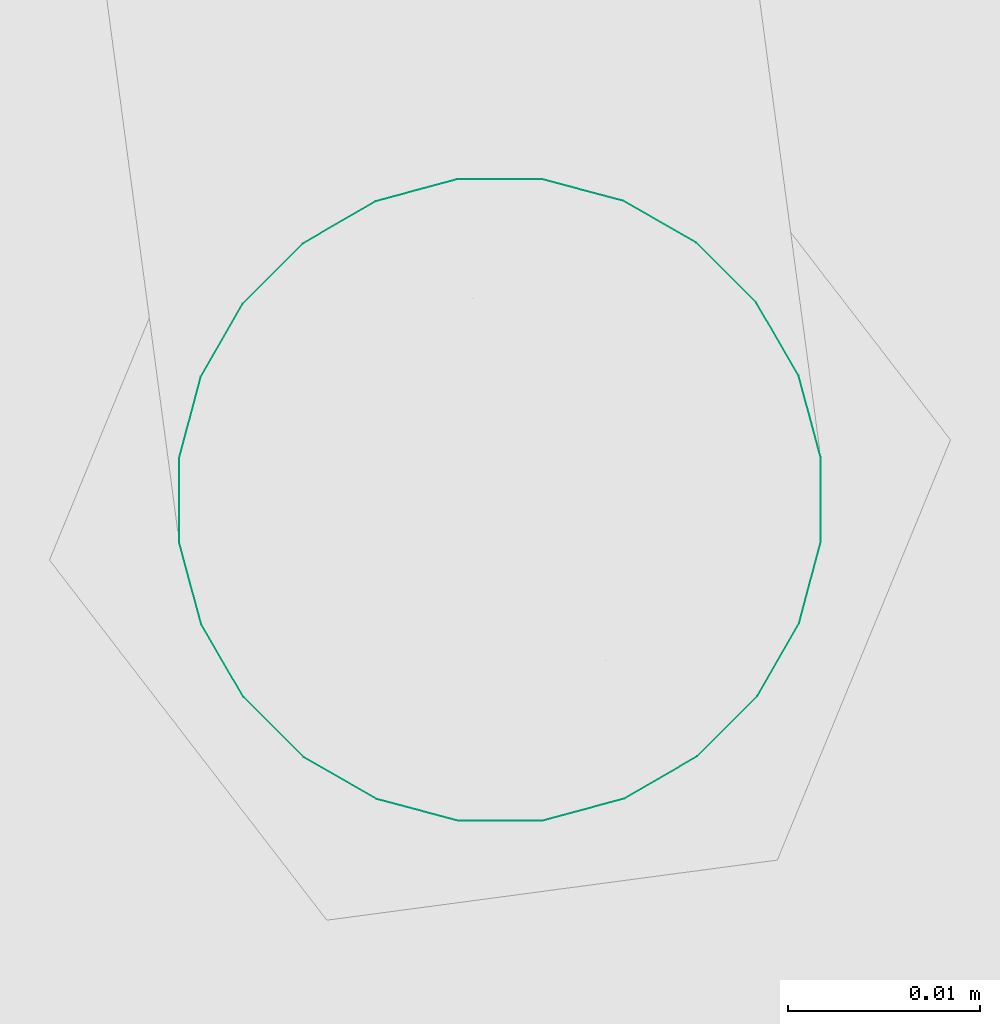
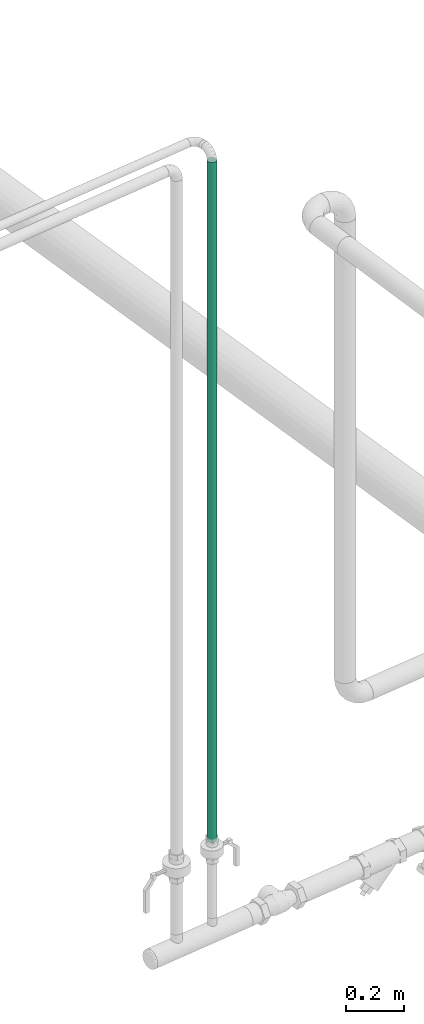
# One storey, part 230 of 374: 1 flow segment.
"""IFC2X3 building model written with IfcOpenShell, lengths in metres."""

from ifc_helpers import new_model, si_unit, direction, origin, place, context, subcontext, project, spatial, open_shell, surface_model, source, transform, mapped, element, save


model = new_model("IFC2X3")

# Units and contexts
model_context = context("Model", 3, precision=1e-05, world=origin(), true_north=direction((-0.4480736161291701, 0.8939966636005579)))
body_context = subcontext(model_context, "Body", "Model", "MODEL_VIEW")
ifc_project = project(units=[si_unit("LENGTHUNIT", "METRE"), si_unit("AREAUNIT", "SQUARE_METRE"), si_unit("VOLUMEUNIT", "CUBIC_METRE"), si_unit("PLANEANGLEUNIT", "RADIAN"), si_unit("THERMODYNAMICTEMPERATUREUNIT", "KELVIN"), si_unit("MASSUNIT", "GRAM", prefix="KILO"), si_unit("TIMEUNIT", "SECOND")], contexts=[model_context])

# Site, building, storey
site_placement = place(None, origin())
site = spatial("IfcSite", under=ifc_project, at=site_placement, Name="Site 1", CompositionType="ELEMENT")
building_placement = place(site_placement, origin())
building = spatial("IfcBuilding", under=site, at=building_placement, Name="Undefined", CompositionType="ELEMENT")
storey_placement = place(building_placement, origin())
storey = spatial("IfcBuildingStorey", under=building, at=storey_placement, Name="Rez de chauss\x8ee", CompositionType="ELEMENT", Elevation=0.0)

# Flow segment
shared_shape = source(origin(), body_context, "Body", "SurfaceModel", [
    surface_model("IfcFaceBasedSurfaceModel", [(0.0, 0.004398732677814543, 0.0), (0.0, 0.0, 0.0), (2.8779938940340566, 1.4210854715e-14, -2.664535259e-15), (2.8779938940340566, 0.004398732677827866, 8.8817842e-16), (0.0, -0.004248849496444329, -0.00113847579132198), (2.8779938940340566, -0.004248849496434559, -0.0011384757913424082), (0.0, -0.008058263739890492, -0.003337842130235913), (2.8779938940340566, -0.008058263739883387, -0.0033378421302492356), (0.0, -0.01116863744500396, -0.0064482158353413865), (2.8779938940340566, -0.011168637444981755, -0.006448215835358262), (0.0, -0.013368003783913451, -0.010257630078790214), (2.8779938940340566, -0.013368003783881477, -0.01025763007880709), (0.0, -0.014506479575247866, -0.014506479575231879), (2.8779938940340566, -0.014506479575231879, -0.014506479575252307), (0.0, -0.01450647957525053, -0.01890521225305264), (2.8779938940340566, -0.014506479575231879, -0.01890521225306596), (0.0, -0.013368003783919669, -0.023154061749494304), (2.8779938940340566, -0.013368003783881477, -0.02315406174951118), (0.0, -0.011168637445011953, -0.02696347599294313), (2.8779938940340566, -0.011168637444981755, -0.0269634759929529), (0.0, -0.008058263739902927, -0.03007384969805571), (2.8779938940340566, -0.008058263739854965, -0.030073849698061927), (0.0, -0.004248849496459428, -0.03227321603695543), (2.8779938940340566, -0.004248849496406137, -0.03227321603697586), (0.0, -1.5099033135e-14, -0.03341169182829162), (2.8779938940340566, 1.4210854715e-14, -0.03341169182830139), (0.0, 0.00439873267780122, -0.03341169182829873), (2.8779938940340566, 0.0043987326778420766, -0.03341169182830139), (0.0, 0.008647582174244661, -0.03227321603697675), (2.8779938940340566, 0.008647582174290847, -0.0322732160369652), (0.0, 0.012456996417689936, -0.030073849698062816), (2.8779938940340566, 0.012456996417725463, -0.030073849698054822), (0.0, 0.01556737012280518, -0.026963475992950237), (2.8779938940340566, 0.015567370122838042, -0.02696347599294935), (0.0, 0.017766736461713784, -0.023154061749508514), (2.8779938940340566, 0.017766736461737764, -0.023154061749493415), (0.0, 0.018905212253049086, -0.01890521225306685), (2.8779938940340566, 0.018905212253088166, -0.018905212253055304), (0.0, 0.018905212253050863, -0.01450647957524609), (2.8779938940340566, 0.018905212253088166, -0.014506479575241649), (0.0, 0.01776673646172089, -0.01025763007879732), (2.8779938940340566, 0.017766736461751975, -0.010257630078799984), (0.0, 0.015567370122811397, -0.006448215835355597), (2.8779938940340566, 0.015567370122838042, -0.006448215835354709), (0.0, 0.012456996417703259, -0.0033378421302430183), (2.8779938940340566, 0.012456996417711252, -0.0033378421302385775), (0.0, 0.00864758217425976, -0.0011384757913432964), (2.8779938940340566, 0.008647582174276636, -0.0011384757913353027)], [open_shell([[[0, 1, 2, 3]], [[1, 4, 5, 2]], [[4, 6, 7, 5]], [[6, 8, 9, 7]], [[8, 10, 11, 9]], [[10, 12, 13, 11]], [[12, 14, 15, 13]], [[14, 16, 17, 15]], [[16, 18, 19, 17]], [[18, 20, 21, 19]], [[20, 22, 23, 21]], [[22, 24, 25, 23]], [[24, 26, 27, 25]], [[26, 28, 29, 27]], [[28, 30, 31, 29]], [[30, 32, 33, 31]], [[32, 34, 35, 33]], [[34, 36, 37, 35]], [[36, 38, 39, 37]], [[38, 40, 41, 39]], [[40, 42, 43, 41]], [[42, 44, 45, 43]], [[44, 46, 47, 45]], [[46, 0, 3, 47]]])]),
])
flow_segment_placement = place(storey_placement, origin())
element("IfcFlowSegment", 1, at=flow_segment_placement, inside=storey, Name="Tube acier d'après DIN 2448", ObjectType="Tube acier d'après DIN 2448", context=body_context, shape_type="MappedRepresentation", body=[
    mapped(shared_shape, transform((66.08860256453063, 20.374023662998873, 1.089146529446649), x_axis=(0.0, 0.0, 1.0), y_axis=(0.9654726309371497, 0.26050450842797, 0.0), z_axis=(-0.26050450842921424, 0.965472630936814, 0.0))),
])

save(model, "model.ifc")
